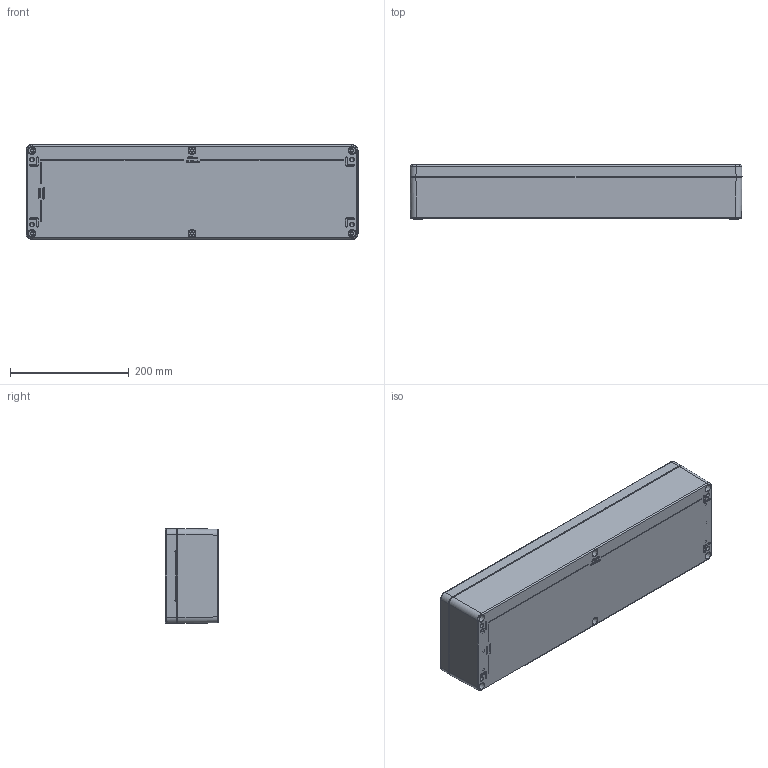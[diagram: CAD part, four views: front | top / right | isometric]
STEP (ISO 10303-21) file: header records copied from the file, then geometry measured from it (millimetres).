
FILE_DESCRIPTION (( 'STEP AP203' ), '1' );
FILE_NAME ('ALU ASSY 560X160X90.STEP', '2024-08-28T10:57:22', ( '' ), ( '' ), 'SwSTEP 2.0', 'SolidWorks 2018', '' );
FILE_SCHEMA (( 'CONFIG_CONTROL_DESIGN' ));
Length unit declared in the file: millimetre
Products named in the file (6): ALU ASSY 560X160X90; 93134_Standard.STEP; 01165609.STEP; 82009_Standard.STEP; 01059_Standard.STEP; 02059_Standard.STEP
Assembly tree (10 placements, depth 3):
  ALU ASSY 560X160X90
    01165609.STEP
      93134_Standard.STEP  x6
      02059_Standard.STEP
      01059_Standard.STEP
      82009_Standard.STEP
Bounding box: 560 x 91 x 160 mm (x, y, z)
Volume: 1435713.4 mm3; surface area: 635408.4 mm2
Topology: 9 solids, 9 shells, 2962 faces, 6611 edges, 3553 vertices
Faces by surface type: bspline 1053, cylinder 831, plane 505, cone 210, sphere 203, torus 160
Entity records: 123926 total; most frequent: CARTESIAN_POINT 70532, ORIENTED_EDGE 12056, DIRECTION 9235, EDGE_CURVE 6028, AXIS2_PLACEMENT_3D 3638, VERTEX_POINT 3303, EDGE_LOOP 2913, ADVANCED_FACE 2807
